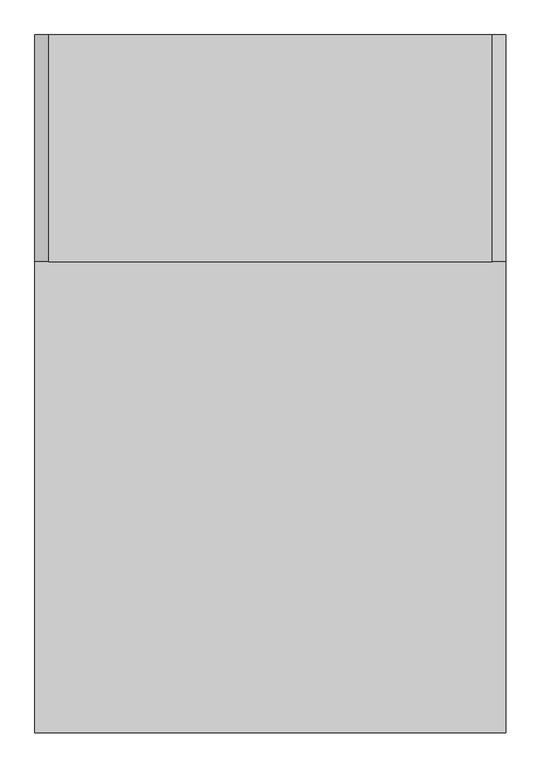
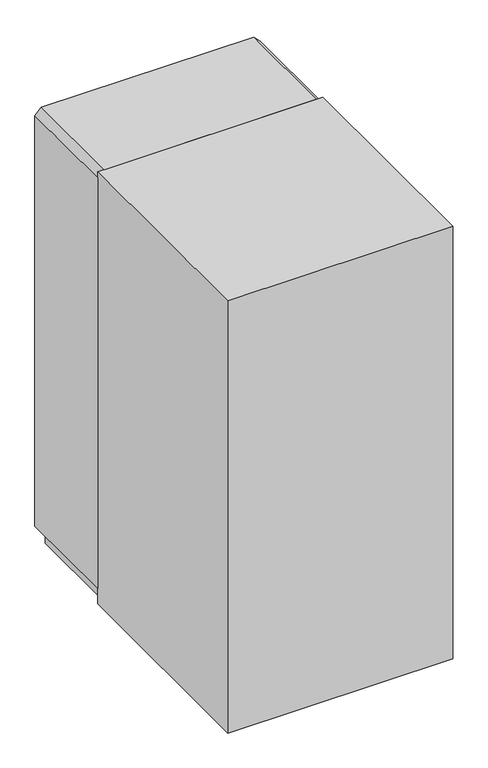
"""IFC4 building model written with IfcOpenShell, lengths in millimetres: electric distribution board geometry, НВО_НапольныеШкафыФиберглас_DKC : 330х685х1390 мм (ГхШхВ)."""

from ifc_helpers import new_model, si_unit, point, frame, frame_2d, origin, origin_with_axes, place, context, project, spatial, polyline, circle_curve, ellipse_curve, trimmed, segment, composite_curve, outline, extrude, faceted_brep, source, transform, mapped, element, save
from ifc_brep_helpers import plane_surface, cylinder_surface, revolved_surface, advanced_brep


def electric_distribution_board_87cecea4(model_context):
    return source(origin(), model_context, "Body", "SolidModel", [
        extrude(outline(composite_curve([segment(polyline([(710.8138286, -257.7522548), (718.4900433, -257.7522548)]), True, "CONTINUOUS"), segment(trimmed(circle_curve(frame_2d((718.4900433, -267.1374537)), 9.3851989), [point((718.4900433, -257.7522548))], [point((721.9762928, -258.4237849))], False, "CARTESIAN"), True, "CONTINUOUS"), segment(trimmed(circle_curve(frame_2d((720.1575175, -262.9697033)), 4.8962555), [point((721.9762928, -258.4237849))], [point((725.0311913, -262.5))], False, "CARTESIAN"), True, "CONTINUOUS"), segment(trimmed(circle_curve(frame_2d((720.1575175, -262.0302967)), 4.8962555), [point((725.0311913, -262.5))], [point((721.9762928, -266.5762151))], False, "CARTESIAN"), True, "CONTINUOUS"), segment(trimmed(circle_curve(frame_2d((718.4900433, -257.8625463)), 9.3851989), [point((721.9762928, -266.5762151))], [point((718.4900433, -267.2477452))], False, "CARTESIAN"), True, "CONTINUOUS"), segment(polyline([(718.4900433, -267.2477452), (710.8138286, -267.2477452), (710.8138286, -257.7522548)]), True, "CONTINUOUS")], self_intersect=False), holes=[composite_curve([segment(polyline([(714.3837798, -265.9305842), (716.9434813, -265.9305842)]), True, "CONTINUOUS"), segment(trimmed(circle_curve(frame_2d((716.9434813, -258.2124901)), 7.7180942), [point((716.9434813, -265.9305842))], [point((719.993583, -265.3023319))], True, "CARTESIAN"), True, "CONTINUOUS"), segment(trimmed(circle_curve(frame_2d((719.2525158, -263.5797503)), 1.8752248), [point((719.993583, -265.3023319))], [point((721.0985068, -263.9095765))], True, "CARTESIAN"), True, "CONTINUOUS"), segment(trimmed(circle_curve(frame_2d((711.0850865, -262.1204625)), 10.1719966), [point((721.0985068, -263.9095765))], [point((721.25, -262.5))], True, "CARTESIAN"), True, "CONTINUOUS"), segment(trimmed(circle_curve(frame_2d((711.0850865, -262.8795375)), 10.1719966), [point((721.25, -262.5))], [point((721.0985068, -261.0904235))], True, "CARTESIAN"), True, "CONTINUOUS"), segment(trimmed(circle_curve(frame_2d((719.2525158, -261.4202497)), 1.8752248), [point((721.0985068, -261.0904235))], [point((719.993583, -259.6976681))], True, "CARTESIAN"), True, "CONTINUOUS"), segment(trimmed(circle_curve(frame_2d((716.9434813, -266.7875099)), 7.7180942), [point((719.993583, -259.6976681))], [point((716.9434813, -259.0694158))], True, "CARTESIAN"), True, "CONTINUOUS"), segment(polyline([(716.9434813, -259.0694158), (714.3837798, -259.0694158), (714.3837798, -265.9305842)]), True, "CONTINUOUS")], self_intersect=False)]), frame((0.0, -349.9347331, 0.0), z_axis=(0.0, 1.0, 0.0), x_axis=(0.0, 0.0, 1.0)), (0.0, 0.0, 1.0), 2.0),
        extrude(outline(polyline([(726.8651273, -267.2477452), (726.8651273, -257.7522548), (730.2591425, -257.7522548), (730.2591425, -261.7401383), (734.805842, -257.7522548), (738.9379796, -257.7522548), (733.0768154, -263.0384249), (738.8065331, -267.2477452), (736.2483827, -267.2477452), (730.2254382, -262.7876655), (730.2254382, -267.2477452), (726.8651273, -267.2477452)])), frame((0.0, -349.9347331, 0.0), z_axis=(0.0, 1.0, 0.0), x_axis=(0.0, 0.0, 1.0)), (0.0, 0.0, 1.0), 2.0),
        extrude(outline(composite_curve([segment(trimmed(circle_curve(frame_2d((746.9133068, -252.5078894)), 14.8634972), [point((751.7152502, -266.5743349))], [point((744.1895385, -267.1196872))], False, "CARTESIAN"), True, "CONTINUOUS"), segment(trimmed(circle_curve(frame_2d((746.3630672, -255.4596787)), 11.860861), [point((744.1895385, -267.1196872))], [point((740.5739155, -265.8117677))], False, "CARTESIAN"), True, "CONTINUOUS"), segment(trimmed(circle_curve(frame_2d((743.0750554, -261.3392604)), 5.1243559), [point((740.5739155, -265.8117677))], [point((738.78522, -264.1421758))], False, "CARTESIAN"), True, "CONTINUOUS"), segment(trimmed(circle_curve(frame_2d((741.1229197, -262.6147571)), 2.7924627), [point((738.78522, -264.1421758))], [point((738.332816, -262.5))], False, "CARTESIAN"), True, "CONTINUOUS"), segment(trimmed(circle_curve(frame_2d((742.6228648, -262.6764499)), 4.2936759), [point((738.332816, -262.5))], [point((740.4446969, -258.9762827))], False, "CARTESIAN"), True, "CONTINUOUS"), segment(trimmed(circle_curve(frame_2d((746.4589923, -269.1930797)), 11.8555763), [point((740.4446969, -258.9762827))], [point((751.115315, -258.2901742))], False, "CARTESIAN"), True, "CONTINUOUS"), segment(polyline([(751.115315, -258.2901742), (751.6309744, -259.7760981)]), True, "CONTINUOUS"), segment(trimmed(circle_curve(frame_2d((747.6192613, -265.8401731)), 7.2709591), [point((751.6309744, -259.7760981))], [point((743.1649902, -260.0933204))], True, "CARTESIAN"), True, "CONTINUOUS"), segment(trimmed(circle_curve(frame_2d((744.8858263, -262.3135247)), 2.8090184), [point((743.1649902, -260.0933204))], [point((742.2884468, -263.3831991))], True, "CARTESIAN"), True, "CONTINUOUS"), segment(trimmed(circle_curve(frame_2d((745.9916031, -261.8581346)), 4.0048956), [point((742.2884468, -263.3831991))], [point((744.0936187, -265.3847256))], True, "CARTESIAN"), True, "CONTINUOUS"), segment(trimmed(circle_curve(frame_2d((747.0442994, -259.9021495)), 6.2261671), [point((744.0936187, -265.3847256))], [point((751.0549262, -264.6645049))], True, "CARTESIAN"), True, "CONTINUOUS"), segment(polyline([(751.0549262, -264.6645049), (751.7152502, -266.5743349)]), True, "CONTINUOUS")], self_intersect=False)), frame((0.0, -349.9347331, 0.0), z_axis=(0.0, 1.0, 0.0), x_axis=(0.0, 0.0, 1.0)), (0.0, 0.0, 1.0), 2.0),
        extrude(outline(composite_curve([segment(trimmed(circle_curve(frame_2d((704.3943478, -266.4810141)), 0.7712407), [point((705.1655885, -266.4810141))], [point((704.3943478, -267.2522548))], False, "CARTESIAN"), True, "CONTINUOUS"), segment(polyline([(704.3943478, -267.2522548), (692.3578162, -267.2522548)]), True, "CONTINUOUS"), segment(trimmed(circle_curve(frame_2d((692.3578162, -266.2482214)), 1.0040334), [point((692.3578162, -267.2522548))], [point((691.3537828, -266.2482214))], False, "CARTESIAN"), True, "CONTINUOUS"), segment(polyline([(691.3537828, -266.2482214), (691.3537828, -258.7525173)]), True, "CONTINUOUS"), segment(trimmed(circle_curve(frame_2d((692.3540454, -258.7525173)), 1.0002626), [point((691.3537828, -258.7525173))], [point((692.3540454, -257.7522548))], False, "CARTESIAN"), True, "CONTINUOUS"), segment(polyline([(692.3540454, -257.7522548), (704.5242138, -257.7522548)]), True, "CONTINUOUS"), segment(trimmed(circle_curve(frame_2d((704.5242138, -262.6985482)), 4.9462935), [point((704.5242138, -257.7522548))], [point((708.5298557, -259.7967122))], False, "CARTESIAN"), True, "CONTINUOUS"), segment(polyline([(708.5298557, -259.7967122), (708.5298557, -261.0784181)]), True, "CONTINUOUS"), segment(trimmed(circle_curve(frame_2d((703.4999778, -265.548804)), 6.7293403), [point((708.5298557, -261.0784181))], [point((698.4700999, -261.0784181))], True, "CARTESIAN"), True, "CONTINUOUS"), segment(polyline([(698.4700999, -261.0784181), (698.4700999, -260.024661)]), True, "CONTINUOUS"), segment(trimmed(circle_curve(frame_2d((700.3979157, -260.4883644)), 1.9827998), [point((698.4700999, -260.024661))], [point((700.3979157, -258.5055647))], False, "CARTESIAN"), True, "CONTINUOUS"), segment(polyline([(700.3979157, -258.5055647), (694.5443909, -258.5055647), (694.5443909, -266.4989449), (703.9735784, -266.4989449), (703.9735784, -265.6225561), (705.1655885, -265.6225561), (705.1655885, -266.4810141)]), True, "CONTINUOUS")], self_intersect=False)), frame((0.0, -349.9347331, 0.0), z_axis=(0.0, 1.0, 0.0), x_axis=(0.0, 0.0, 1.0)), (0.0, 0.0, 1.0), 2.0),
        extrude(outline(composite_curve([segment(polyline([(708.5298557, -261.6735802), (708.5298557, -262.4609475)]), True, "CONTINUOUS"), segment(trimmed(circle_curve(frame_2d((703.4999778, -267.5528216)), 7.1572937), [point((708.5298557, -262.4609475))], [point((698.4700999, -262.4609475))], True, "CARTESIAN"), True, "CONTINUOUS"), segment(polyline([(698.4700999, -262.4609475), (698.4700999, -261.6735802)]), True, "CONTINUOUS"), segment(trimmed(circle_curve(frame_2d((703.4999778, -266.1469573)), 6.7313279), [point((698.4700999, -261.6735802))], [point((708.5298557, -261.6735802))], False, "CARTESIAN"), True, "CONTINUOUS")], self_intersect=False)), frame((0.0, -349.9347331, 0.0), z_axis=(0.0, 1.0, 0.0), x_axis=(0.0, 0.0, 1.0)), (0.0, 0.0, 1.0), 2.0),
        extrude(outline(composite_curve([segment(trimmed(circle_curve(frame_2d((703.5754287, -258.1681942)), 5.9267817), [point((707.7887061, -262.3365314))], [point((699.4178854, -262.392123))], False, "CARTESIAN"), True, "CONTINUOUS"), segment(polyline([(699.4178854, -262.392123), (699.9713245, -261.8386839)]), True, "CONTINUOUS"), segment(trimmed(circle_curve(frame_2d((703.5532461, -256.5800223)), 6.3626791), [point((699.9713245, -261.8386839))], [point((707.1351677, -261.8386839))], True, "CARTESIAN"), True, "CONTINUOUS"), segment(polyline([(707.1351677, -261.8386839), (707.7887061, -262.3365314)]), True, "CONTINUOUS")], self_intersect=False)), frame((0.0, -349.9347331, 0.0), z_axis=(0.0, 1.0, 0.0), x_axis=(0.0, 0.0, 1.0)), (0.0, 0.0, 1.0), 2.0),
        extrude(outline(composite_curve([segment(trimmed(circle_curve(frame_2d((703.5446509, -256.0765057)), 6.5304546), [point((706.7527872, -261.7646248))], [point((700.3365145, -261.7646248))], False, "CARTESIAN"), True, "CONTINUOUS"), segment(polyline([(700.3365145, -261.7646248), (701.1818807, -261.4146088)]), True, "CONTINUOUS"), segment(trimmed(circle_curve(frame_2d((703.5533786, -254.9429647)), 6.8924726), [point((701.1818807, -261.4146088))], [point((705.9248764, -261.4146088))], True, "CARTESIAN"), True, "CONTINUOUS"), segment(polyline([(705.9248764, -261.4146088), (706.7527872, -261.7646248)]), True, "CONTINUOUS")], self_intersect=False)), frame((0.0, -349.9347331, 0.0), z_axis=(0.0, 1.0, 0.0), x_axis=(0.0, 0.0, 1.0)), (0.0, 0.0, 1.0), 2.0),
        extrude(outline(composite_curve([segment(polyline([(707.9280867, -262.4744254), (708.6420658, -263.1884044)]), True, "CONTINUOUS"), segment(trimmed(circle_curve(frame_2d((703.5754287, -258.1681942)), 7.1325536), [point((708.6420658, -263.1884044))], [point((698.566359, -263.2458455))], False, "CARTESIAN"), True, "CONTINUOUS"), segment(polyline([(698.566359, -263.2458455), (699.2803485, -262.531856)]), True, "CONTINUOUS"), segment(trimmed(circle_curve(frame_2d((703.5754287, -258.1681942)), 6.1228472), [point((699.2803485, -262.531856))], [point((707.9280867, -262.4744254))], True, "CARTESIAN"), True, "CONTINUOUS")], self_intersect=False)), frame((0.0, -349.9347331, 0.0), z_axis=(0.0, 1.0, 0.0), x_axis=(0.0, 0.0, 1.0)), (0.0, 0.0, 1.0), 2.0),
        advanced_brep(
        [(-262.5, -333.6219056, 651.3787589), (-262.5, -333.6219056, 768.6212411), (-246.7926219, -333.6219056, 752.913863), (-246.7926219, -333.6219056, 667.086137), (-278.2073781, -333.6219056, 667.086137), (-278.2073781, -333.6219056, 752.913863)],
        [
            (0, 1),
            (1, 2, circle_curve(frame((-262.5, -333.6219056, 752.913863), z_axis=(0.0, 1.0, 0.0), x_axis=(-1.0, 0.0, 0.0)), 15.7073781)),
            (2, 3),
            (3, 0, circle_curve(frame((-262.5, -333.6219056, 667.086137), z_axis=(0.0, 1.0, 0.0), x_axis=(-1.0, 0.0, 0.0)), 15.7073781)),
            (0, 4, circle_curve(frame((-262.5, -333.6219056, 667.086137), z_axis=(0.0, 1.0, 0.0), x_axis=(1.0, 0.0, 0.0)), 15.7073781)),
            (4, 5),
            (5, 1, circle_curve(frame((-262.5, -333.6219056, 752.913863), z_axis=(0.0, 1.0, 0.0), x_axis=(1.0, 0.0, 0.0)), 15.7073781)),
            (5, 2, circle_curve(frame((-262.5, -333.6219056, 752.913863), z_axis=(0.0, 0.0, 1.0), x_axis=(1.0, 0.0, 0.0)), 15.7073781)),
            (4, 3, circle_curve(frame((-262.5, -333.6219056, 667.086137), z_axis=(0.0, 0.0, 1.0), x_axis=(1.0, 0.0, 0.0)), 15.7073781)),
        ],
        [
            plane_surface(frame((-262.5, -333.6219056, 2710.0), z_axis=(0.0, 1.0, 0.0), x_axis=(1.0, 0.0, 0.0))),
            plane_surface(frame((-262.5, -333.6219056, 2710.0), z_axis=(0.0, 1.0, 0.0), x_axis=(-1.0, 0.0, 0.0))),
            revolved_surface(trimmed(ellipse_curve(frame((-262.5, -333.6219056, 752.913863), z_axis=(0.0, 1.0, 0.0), x_axis=(-1.0, 0.0, 0.0)), 15.7073781, 15.7073781), [point((-262.5, -333.6219056, 768.6212411))], [point((-246.7926219, -333.6219056, 752.913863))], True, "CARTESIAN"), (-262.5, -333.6219056, 2710.0), (0.0, 0.0, -1.0)),
            cylinder_surface(frame((-262.5, -333.6219056, 2710.0), z_axis=(0.0, 0.0, -1.0), x_axis=(1.0, 0.0, 0.0)), 15.7073781),
            revolved_surface(trimmed(ellipse_curve(frame((-262.5, -333.6219056, 667.086137), z_axis=(0.0, 1.0, 0.0), x_axis=(-1.0, 0.0, 0.0)), 15.7073781, 15.7073781), [point((-246.7926219, -333.6219056, 667.086137))], [point((-262.5, -333.6219056, 651.3787589))], True, "CARTESIAN"), (-262.5, -333.6219056, 2710.0), (0.0, 0.0, -1.0)),
        ],
        [
            (0, [[1, 2, 3, 4]]),
            (1, [[5, 6, 7, -1]]),
            (2, [[8, -2, -7]]),
            (3, [[9, -3, -8, -6]]),
            (4, [[-4, -9, -5]]),
        ],
    ),
        advanced_brep(
        [(-243.165726, -333.6219056, 667.086137), (-281.834274, -333.6219056, 667.086137), (-288.2073781, -330.0, 667.086137), (-236.7926219, -330.0, 667.086137), (-246.7926219, -330.0, 667.086137), (-278.2073781, -330.0, 667.086137), (-278.2073781, -333.6219056, 667.086137), (-246.7926219, -333.6219056, 667.086137), (-236.7926219, -330.0, 752.913863), (-243.165726, -333.6219056, 752.913863), (-246.7926219, -333.6219056, 752.913863), (-246.7926219, -330.0, 752.913863), (-281.834274, -333.6219056, 752.913863), (-288.2073781, -330.0, 752.913863), (-278.2073781, -330.0, 752.913863), (-278.2073781, -333.6219056, 752.913863)],
        [
            (0, 1, circle_curve(frame((-262.5, -333.6219056, 667.086137), z_axis=(0.0, 1.0, 0.0), x_axis=(-1.0, 0.0, 0.0)), 19.334274)),
            (1, 2),
            (2, 3, circle_curve(frame((-262.5, -330.0, 667.086137), z_axis=(0.0, -1.0, 0.0), x_axis=(-1.0, 0.0, 0.0)), 25.7073781)),
            (3, 0),
            (4, 5, circle_curve(frame((-262.5, -330.0, 667.086137), z_axis=(0.0, 1.0, 0.0), x_axis=(-1.0, 0.0, 0.0)), 15.7073781)),
            (5, 6),
            (6, 7, circle_curve(frame((-262.5, -333.6219056, 667.086137), z_axis=(0.0, -1.0, 0.0), x_axis=(-1.0, 0.0, 0.0)), 15.7073781)),
            (7, 4),
            (3, 8),
            (8, 9),
            (9, 0),
            (7, 10),
            (10, 11),
            (11, 4),
            (12, 9, circle_curve(frame((-262.5, -333.6219056, 752.913863), z_axis=(0.0, 1.0, 0.0), x_axis=(1.0, 0.0, 0.0)), 19.334274)),
            (8, 13, circle_curve(frame((-262.5, -330.0, 752.913863), z_axis=(0.0, -1.0, 0.0), x_axis=(1.0, 0.0, 0.0)), 25.7073781)),
            (13, 12),
            (14, 11, circle_curve(frame((-262.5, -330.0, 752.913863), z_axis=(0.0, 1.0, 0.0), x_axis=(1.0, 0.0, 0.0)), 15.7073781)),
            (10, 15, circle_curve(frame((-262.5, -333.6219056, 752.913863), z_axis=(0.0, -1.0, 0.0), x_axis=(1.0, 0.0, 0.0)), 15.7073781)),
            (15, 14),
            (2, 13),
            (14, 5),
            (1, 12),
            (6, 15),
        ],
        [
            revolved_surface(polyline([(-288.2073781, -330.0, 667.086137), (-281.834274, -333.6219056, 667.086137)]), (-262.5, -330.0, 667.086137), (0.0, -1.0, 0.0)),
            revolved_surface(polyline([(-278.2073781, -333.6219056, 667.086137), (-278.2073781, -330.0, 667.086137)]), (-262.5, -330.0, 667.086137), (0.0, -1.0, 0.0)),
            plane_surface(frame((-236.7926219, -330.0, 667.086137), z_axis=(0.49409435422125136, -0.8694082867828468, 0.0), x_axis=(0.0, 0.0, 1.0))),
            plane_surface(frame((-246.7926219, -333.6219056, 667.086137), z_axis=(-1.0, 0.0, 0.0), x_axis=(0.0, 0.0, 1.0))),
            revolved_surface(polyline([(-236.7926219, -330.0, 752.913863), (-243.165726, -333.6219056, 752.913863)]), (-262.5, -330.0, 752.913863), (0.0, -1.0, 0.0)),
            revolved_surface(polyline([(-246.7926219, -333.6219056, 752.913863), (-246.7926219, -330.0, 752.913863)]), (-262.5, -330.0, 752.913863), (0.0, -1.0, 0.0)),
            plane_surface(frame((-278.2073781, -330.0, 752.913863), z_axis=(0.0, 1.0, 0.0), x_axis=(0.0, 0.0, -1.0))),
            plane_surface(frame((-288.2073781, -330.0, 752.913863), z_axis=(-0.49409435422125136, -0.8694082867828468, 0.0), x_axis=(0.0, 0.0, -1.0))),
            plane_surface(frame((-281.834274, -333.6219056, 752.913863), z_axis=(0.0, -1.0, 0.0), x_axis=(0.0, 0.0, -1.0))),
            plane_surface(frame((-278.2073781, -333.6219056, 752.913863), z_axis=(1.0, 0.0, 0.0), x_axis=(0.0, 0.0, -1.0))),
        ],
        [
            (0, [[1, 2, 3, 4]]),
            (1, [[5, 6, 7, 8]]),
            (2, [[-4, 9, 10, 11]]),
            (3, [[-8, 12, 13, 14]]),
            (4, [[15, -10, 16, 17]]),
            (5, [[18, -13, 19, 20]]),
            (6, [[21, -16, -9, -3], [-14, -18, 22, -5]]),
            (7, [[-17, -21, -2, 23]]),
            (8, [[-11, -15, -23, -1], [24, -19, -12, -7]]),
            (9, [[-20, -24, -6, -22]]),
        ],
    ),
        extrude(outline(polyline([(322.5, -330.0), (-322.5, -330.0), (-322.5, -325.0), (322.5, -325.0), (322.5, -330.0)])), frame((0.0, 0.0, 50.0), z_axis=(0.0, 0.0, 1.0), x_axis=(1.0, 0.0, 0.0)), (0.0, 0.0, 1.0), 1320.0),
        faceted_brep([(322.5, -5.0, 50.0), (322.5, -5.0, 1370.0), (-322.5, -5.0, 1370.0), (-322.5, -5.0, 50.0), (-342.5, 0.0, 50.0), (-342.5, 0.0, 1370.0), (-322.5, 0.0, 1390.0), (322.5, 0.0, 1390.0), (342.5, 0.0, 1370.0), (342.5, 0.0, 50.0), (322.5, 0.0, 30.0), (-322.5, 0.0, 30.0), (-342.5, -330.0, 50.0), (-322.5, -330.0, 30.0), (322.5, -330.0, 30.0), (342.5, -330.0, 50.0), (342.5, -330.0, 1370.0), (322.5, -330.0, 1390.0), (-322.5, -330.0, 1390.0), (-342.5, -330.0, 1370.0), (322.5, -330.0, 1370.0), (322.5, -330.0, 50.0), (-322.5, -330.0, 50.0), (-322.5, -330.0, 1370.0)], [[[0, 1, 2, 3]], [[4, 5, 6, 7, 8, 9, 10, 11]], [[12, 13, 14, 15, 16, 17, 18, 19], [20, 21, 22, 23]], [[13, 12, 4, 11]], [[14, 13, 11, 10]], [[15, 14, 10, 9]], [[16, 15, 9, 8]], [[17, 16, 8, 7]], [[18, 17, 7, 6]], [[19, 18, 6, 5]], [[12, 19, 5, 4]], [[21, 20, 1, 0]], [[22, 21, 0, 3]], [[23, 22, 3, 2]], [[20, 23, 2, 1]]]),
        extrude(outline(polyline([(322.5, -20.0), (322.5, -310.0), (-322.5, -310.0), (-322.5, -20.0), (322.5, -20.0)])), origin_with_axes(), (0.0, 0.0, 1.0), 30.0),
        extrude(outline(polyline([(342.5, -1015.0), (-342.5, -1015.0), (-342.5, -330.0), (342.5, -330.0), (342.5, -1015.0)])), origin_with_axes(), (0.0, 0.0, 1.0), 1390.0),
    ])


if __name__ == "__main__":
    model = new_model("IFC4")
    model_context = context("Model", 3, world=origin())
    ifc_project = project(units=[si_unit("LENGTHUNIT", "METRE", prefix="MILLI")], contexts=[model_context])
    site = spatial("IfcSite", under=ifc_project)
    building = spatial("IfcBuilding", under=site)
    placement = place(None, origin())
    electric_distribution_board_shape = electric_distribution_board_87cecea4(model_context)
    element("IfcElectricDistributionBoard", 1, ObjectType="НВО_НапольныеШкафыФиберглас_DKC : 330х685х1390 мм (ГхШхВ)", at=placement, inside=building, context=model_context, shape_type="MappedRepresentation", body=[
        mapped(electric_distribution_board_shape, transform((0.0, 0.0, 0.0), x_axis=(1.0, 0.0, 0.0), y_axis=(0.0, 1.0, 0.0), z_axis=(0.0, 0.0, 1.0))),
    ])
    save(model, "model.ifc")
